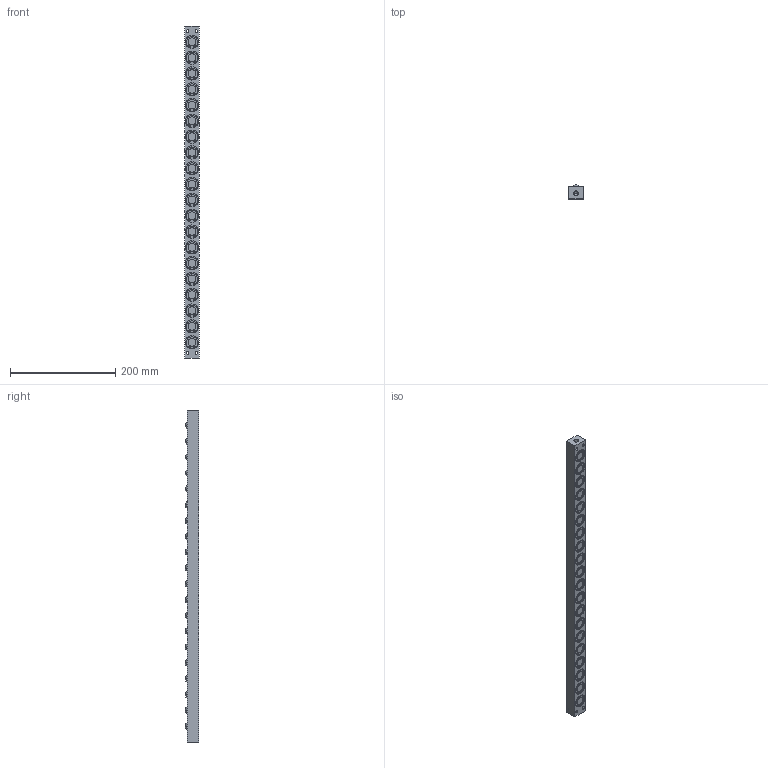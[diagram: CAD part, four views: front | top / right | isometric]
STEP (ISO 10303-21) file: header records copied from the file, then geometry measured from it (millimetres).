
FILE_DESCRIPTION (( 'STEP AP203' ), '1' );
FILE_NAME ('PVL17S-20.STEP', '2015-12-24T06:49:04', ( '' ), ( '' ), 'SwSTEP 2.0', 'SolidWorks 2013', '' );
FILE_SCHEMA (( 'CONFIG_CONTROL_DESIGN' ));
Length unit declared in the file: millimetre
Products named in the file (1): PVL17S-20
Bounding box: 28 x 26 x 630 mm (x, y, z)
Volume: 379611.3 mm3; surface area: 86738 mm2
Topology: 1 solids, 1 shells, 653 faces, 1536 edges, 1029 vertices
Faces by surface type: cylinder 418, plane 191, sphere 40, cone 4
Entity records: 19373 total; most frequent: DIRECTION 3802, CARTESIAN_POINT 3217, ORIENTED_EDGE 3068, AXIS2_PLACEMENT_3D 1614, EDGE_CURVE 1534, VERTEX_POINT 1029, CIRCLE 960, EDGE_LOOP 807
